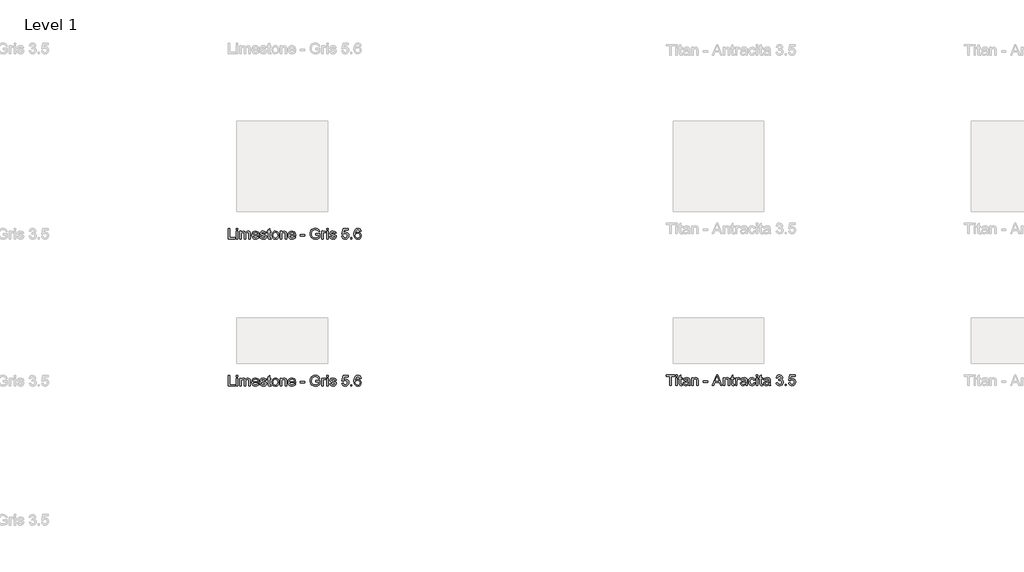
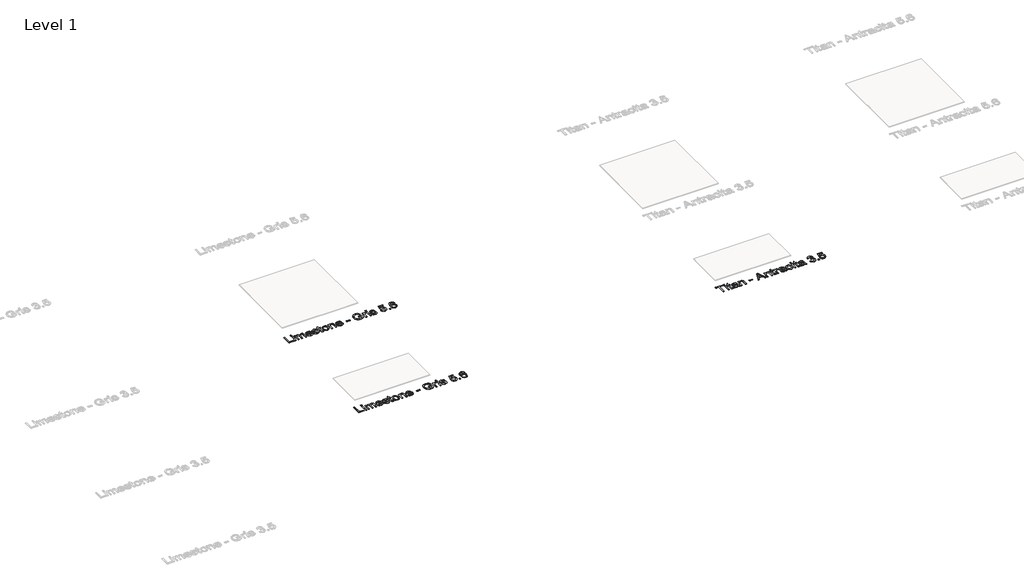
# One storey, part 6 of 80: 3 proxies.
"""IFC4 building model written with IfcOpenShell, lengths in millimetres."""

from ifc_helpers import new_model, si_unit, origin, origin_with_axes, place, context, project, spatial, polyline, outline, extrude, element, save

model = new_model("IFC4")

# Units and contexts
model_context = context("Model", 3, world=origin())
ifc_project = project(units=[si_unit("LENGTHUNIT", "METRE", prefix="MILLI")], contexts=[model_context])

# Site, building, storey
site = spatial("IfcSite", under=ifc_project)
building = spatial("IfcBuilding", under=site)
storey = spatial("IfcBuildingStorey", under=building, Name="Level 1", Elevation=0.0)

# Proxies
placement = place(None, origin())
element("IfcBuildingElementProxy", 1, Name="24\" Arial", ObjectType="24\" Arial", at=placement, inside=storey, context=model_context, shape_type="SweptSolid", body=[
    extrude(outline(polyline([(-15795.3838002, -18695.513613), (-15795.3838002, -18577.3597669), (-15780.6145694, -18577.3597669), (-15780.6145694, -18680.7443823), (-15721.5376464, -18680.7443823), (-15721.5376464, -18695.513613), (-15795.3838002, -18695.513613)])), origin_with_axes(), (0.0, 0.0, 1.0), 2.0),
    extrude(outline(polyline([(-15706.7684156, -18592.1289977), (-15706.7684156, -18577.3597669), (-15691.9991848, -18577.3597669), (-15691.9991848, -18592.1289977), (-15706.7684156, -18592.1289977)])), origin_with_axes(), (0.0, 0.0, 1.0), 2.0),
    extrude(outline(polyline([(-15706.7684156, -18695.513613), (-15706.7684156, -18608.7443823), (-15691.9991848, -18608.7443823), (-15691.9991848, -18695.513613), (-15706.7684156, -18695.513613)])), origin_with_axes(), (0.0, 0.0, 1.0), 2.0),
    extrude(outline(polyline([(-15669.8453387, -18695.513613), (-15669.8453387, -18608.7443823), (-15655.0761079, -18608.7443823), (-15655.0761079, -18623.0232284), (-15644.9222617, -18611.326113), (-15630.4703387, -18606.8982284), (-15615.6722617, -18611.4126515), (-15607.5376464, -18624.06169), (-15596.0136079, -18611.1890938), (-15581.4607233, -18606.8982284), (-15570.3585598, -18608.6830842), (-15562.1482233, -18614.0376515), (-15557.074906, -18623.1061611), (-15555.3838002, -18636.0328438), (-15555.3838002, -18695.513613), (-15570.153031, -18695.513613), (-15570.153031, -18642.3789977), (-15571.5232233, -18630.0472669), (-15576.4847617, -18623.9751515), (-15584.9222617, -18621.6674592), (-15592.9234637, -18623.1458246), (-15599.4463002, -18627.5809207), (-15603.7840406, -18635.2756323), (-15605.2299541, -18646.5328438), (-15605.2299541, -18695.513613), (-15619.9991848, -18695.513613), (-15619.9991848, -18640.7347669), (-15623.4174541, -18626.4270746), (-15634.6241848, -18621.6674592), (-15645.5568771, -18624.8405361), (-15652.8261079, -18634.1289977), (-15655.0761079, -18651.7539977), (-15655.0761079, -18695.513613), (-15669.8453387, -18695.513613)])), origin_with_axes(), (0.0, 0.0, 1.0), 2.0),
    extrude(outline(polyline([(-15472.4799541, -18669.6674592), (-15457.9991848, -18671.513613), (-15463.2167329, -18682.4246707), (-15471.5424541, -18690.5809207), (-15482.7888483, -18695.6650553), (-15496.7684156, -18697.3597669), (-15514.0977425, -18694.435488), (-15527.4318771, -18685.6626515), (-15535.934281, -18671.6109688), (-15538.7684156, -18652.8501515), (-15535.9054348, -18633.4583246), (-15527.3164925, -18618.9559207), (-15514.1626464, -18609.9126515), (-15497.6049541, -18606.8982284), (-15481.5628867, -18609.90544), (-15468.7443771, -18618.9270746), (-15460.3393291, -18633.4006323), (-15457.5376464, -18652.763613), (-15457.6241848, -18656.7443823), (-15523.9991848, -18656.7443823), (-15521.4426944, -18667.7996707), (-15515.5039925, -18675.9270746), (-15506.9330791, -18680.9246707), (-15496.4799541, -18682.5905361), (-15481.9991848, -18679.5039977), (-15472.4799541, -18669.6674592)]), holes=[polyline([(-15523.9991848, -18641.9751515), (-15472.3068771, -18641.9751515), (-15478.2203387, -18628.5905361), (-15486.8309156, -18623.3982284), (-15497.6626464, -18621.6674592), (-15515.8501464, -18627.1914977), (-15521.5725021, -18633.6494303), (-15523.9991848, -18641.9751515)])]), origin_with_axes(), (0.0, 0.0, 1.0), 2.0),
    extrude(outline(polyline([(-15448.3068771, -18669.6674592), (-15433.5376464, -18667.8213053), (-15426.7011079, -18678.7828438), (-15411.0376464, -18682.5905361), (-15395.9799541, -18679.1001515), (-15391.0761079, -18670.9078438), (-15396.0088002, -18664.2732284), (-15411.2107233, -18660.06169), (-15433.4511079, -18652.8357284), (-15443.1578387, -18644.3982284), (-15446.4607233, -18632.4847669), (-15443.8068771, -18621.4799592), (-15436.5664925, -18613.0713053), (-15427.1770694, -18608.701113), (-15414.4703387, -18606.8982284), (-15396.4991848, -18609.7972669), (-15385.0761079, -18617.6434207), (-15379.9991848, -18630.8982284), (-15394.7684156, -18632.7443823), (-15400.3213002, -18624.5953438), (-15413.3164925, -18621.6674592), (-15427.4511079, -18624.4655361), (-15431.6914925, -18630.9847669), (-15429.9318771, -18635.2828438), (-15424.4222617, -18638.5424592), (-15411.7011079, -18641.68669), (-15390.0232233, -18648.638613), (-15379.9559156, -18656.513613), (-15376.3068771, -18669.3501515), (-15380.590531, -18683.4847669), (-15392.9511079, -18693.7395746), (-15411.2395694, -18697.3597669), (-15426.1313964, -18695.6145746), (-15436.9991848, -18690.3789977), (-15444.2539925, -18681.7107284), (-15448.3068771, -18669.6674592)])), origin_with_axes(), (0.0, 0.0, 1.0), 2.0),
    extrude(outline(polyline([(-15328.3068771, -18683.1963053), (-15326.4607233, -18695.9463053), (-15337.5088002, -18697.3597669), (-15349.8838002, -18694.9078438), (-15356.0568771, -18688.4751515), (-15357.8453387, -18671.7155361), (-15357.8453387, -18623.513613), (-15368.9222617, -18623.513613), (-15368.9222617, -18608.7443823), (-15357.8453387, -18608.7443823), (-15357.8453387, -18587.6578438), (-15343.0761079, -18578.9751515), (-15343.0761079, -18608.7443823), (-15328.3068771, -18608.7443823), (-15328.3068771, -18623.513613), (-15343.0761079, -18623.513613), (-15343.0761079, -18671.2828438), (-15342.2972617, -18678.8982284), (-15339.7732233, -18681.5953438), (-15334.7395694, -18682.5905361), (-15328.3068771, -18683.1963053)])), origin_with_axes(), (0.0, 0.0, 1.0), 2.0),
    extrude(outline(polyline([(-15317.2299541, -18652.1289977), (-15314.0352425, -18631.2083246), (-15304.4511079, -18616.5039977), (-15292.6097617, -18609.2996707), (-15278.4318771, -18606.8982284), (-15262.9162521, -18609.8225073), (-15250.5232233, -18618.5953438), (-15242.3994252, -18632.5244303), (-15239.6914925, -18650.9174592), (-15244.4799541, -18677.1963053), (-15258.4270694, -18692.0664977), (-15278.4318771, -18697.3597669), (-15294.1350021, -18694.4463053), (-15306.5136079, -18685.7059207), (-15314.5508675, -18671.4847669), (-15317.2299541, -18652.1289977)]), holes=[polyline([(-15302.4607233, -18652.1001515), (-15300.7515887, -18665.466738), (-15295.6241848, -18674.9895746), (-15287.9078387, -18680.6902957), (-15278.4318771, -18682.5905361), (-15268.9991848, -18680.6794784), (-15261.2972617, -18674.9463053), (-15256.1698579, -18665.2972669), (-15254.4607233, -18651.638613), (-15256.1806752, -18638.6614496), (-15261.340531, -18629.2684207), (-15269.0532714, -18623.5676996), (-15278.4318771, -18621.6674592), (-15287.9078387, -18623.560488), (-15295.6241848, -18629.2395746), (-15300.7515887, -18638.7407765), (-15302.4607233, -18652.1001515)])]), origin_with_axes(), (0.0, 0.0, 1.0), 2.0),
    extrude(outline(polyline([(-15223.0761079, -18695.513613), (-15223.0761079, -18608.7443823), (-15208.3068771, -18608.7443823), (-15208.3068771, -18620.8597669), (-15197.0136079, -18610.388613), (-15181.5953387, -18606.8982284), (-15167.6482233, -18609.7107284), (-15158.1289925, -18617.0953438), (-15153.7011079, -18627.9559207), (-15152.9222617, -18642.2347669), (-15152.9222617, -18695.513613), (-15167.6914925, -18695.513613), (-15167.6914925, -18644.2251515), (-15169.3934156, -18631.1578438), (-15175.4078387, -18624.24919), (-15185.5472617, -18621.6674592), (-15201.5713002, -18627.4655361), (-15206.6229829, -18635.8669784), (-15208.3068771, -18649.4751515), (-15208.3068771, -18695.513613), (-15223.0761079, -18695.513613)])), origin_with_axes(), (0.0, 0.0, 1.0), 2.0),
    extrude(outline(polyline([(-15071.8645694, -18669.6674592), (-15057.3838002, -18671.513613), (-15062.6013483, -18682.4246707), (-15070.9270694, -18690.5809207), (-15082.1734637, -18695.6650553), (-15096.153031, -18697.3597669), (-15113.4823579, -18694.435488), (-15126.8164925, -18685.6626515), (-15135.3188964, -18671.6109688), (-15138.153031, -18652.8501515), (-15135.2900502, -18633.4583246), (-15126.7011079, -18618.9559207), (-15113.5472617, -18609.9126515), (-15096.9895694, -18606.8982284), (-15080.9475021, -18609.90544), (-15068.1289925, -18618.9270746), (-15059.7239444, -18633.4006323), (-15056.9222617, -18652.763613), (-15057.0088002, -18656.7443823), (-15123.3838002, -18656.7443823), (-15120.8273098, -18667.7996707), (-15114.8886079, -18675.9270746), (-15106.3176944, -18680.9246707), (-15095.8645694, -18682.5905361), (-15081.3838002, -18679.5039977), (-15071.8645694, -18669.6674592)]), holes=[polyline([(-15123.3838002, -18641.9751515), (-15071.6914925, -18641.9751515), (-15077.6049541, -18628.5905361), (-15086.215531, -18623.3982284), (-15097.0472617, -18621.6674592), (-15115.2347617, -18627.1914977), (-15120.9571175, -18633.6494303), (-15123.3838002, -18641.9751515)])]), origin_with_axes(), (0.0, 0.0, 1.0), 2.0),
    extrude(outline(polyline([(-15003.3838002, -18660.43669), (-15003.3838002, -18645.6674592), (-14957.2299541, -18645.6674592), (-14957.2299541, -18660.43669), (-15003.3838002, -18660.43669)])), origin_with_axes(), (0.0, 0.0, 1.0), 2.0),
    extrude(outline(polyline([(-14837.2299541, -18649.3597669), (-14837.2299541, -18634.5905361), (-14789.2299541, -18634.5905361), (-14789.2299541, -18678.7539977), (-14812.9270694, -18692.68669), (-14837.9799541, -18697.3597669), (-14854.5484637, -18695.5027957), (-14869.5232233, -18689.9318823), (-14881.9631271, -18680.841738), (-14890.9270694, -18668.4270746), (-14896.3465406, -18653.5352477), (-14898.153031, -18637.013613), (-14896.3537521, -18620.372988), (-14890.9559156, -18604.8934207), (-14882.1830791, -18591.9090457), (-14870.2588002, -18582.7539977), (-14855.7347617, -18577.3237092), (-14839.1626464, -18575.513613), (-14816.0568771, -18579.7107284), (-14799.8597617, -18591.3934207), (-14790.9318771, -18610.93669), (-14804.5472617, -18614.7732284), (-14811.2828387, -18601.1145746), (-14822.7924541, -18593.2395746), (-14839.3934156, -18590.2828438), (-14858.3020694, -18593.4703438), (-14871.1674541, -18601.8357284), (-14878.7684156, -18613.2155361), (-14883.3838002, -18636.4078438), (-14881.9955791, -18650.5316419), (-14877.8309156, -18662.1530361), (-14871.0160117, -18671.1890938), (-14861.6770694, -18677.5568823), (-14839.1626464, -18682.5905361), (-14818.9559156, -18678.7972669), (-14803.9991848, -18670.7059207), (-14803.9991848, -18649.3597669), (-14837.2299541, -18649.3597669)])), origin_with_axes(), (0.0, 0.0, 1.0), 2.0),
    extrude(outline(polyline([(-14767.0761079, -18695.513613), (-14767.0761079, -18608.7443823), (-14754.153031, -18608.7443823), (-14754.153031, -18621.5809207), (-14744.9799541, -18609.7539977), (-14735.7491848, -18606.8982284), (-14720.9222617, -18611.4559207), (-14725.8549541, -18624.6963053), (-14736.2395694, -18621.6674592), (-14744.590531, -18624.5809207), (-14749.9126464, -18632.6578438), (-14752.3068771, -18649.9078438), (-14752.3068771, -18695.513613), (-14767.0761079, -18695.513613)])), origin_with_axes(), (0.0, 0.0, 1.0), 2.0),
    extrude(outline(polyline([(-14711.6914925, -18592.1289977), (-14711.6914925, -18577.3597669), (-14696.9222617, -18577.3597669), (-14696.9222617, -18592.1289977), (-14711.6914925, -18592.1289977)])), origin_with_axes(), (0.0, 0.0, 1.0), 2.0),
    extrude(outline(polyline([(-14711.6914925, -18695.513613), (-14711.6914925, -18608.7443823), (-14696.9222617, -18608.7443823), (-14696.9222617, -18695.513613), (-14711.6914925, -18695.513613)])), origin_with_axes(), (0.0, 0.0, 1.0), 2.0),
    extrude(outline(polyline([(-14680.3068771, -18669.6674592), (-14665.5376464, -18667.8213053), (-14658.7011079, -18678.7828438), (-14643.0376464, -18682.5905361), (-14627.9799541, -18679.1001515), (-14623.0761079, -18670.9078438), (-14628.0088002, -18664.2732284), (-14643.2107233, -18660.06169), (-14665.4511079, -18652.8357284), (-14675.1578387, -18644.3982284), (-14678.4607233, -18632.4847669), (-14675.8068771, -18621.4799592), (-14668.5664925, -18613.0713053), (-14659.1770694, -18608.701113), (-14646.4703387, -18606.8982284), (-14628.4991848, -18609.7972669), (-14617.0761079, -18617.6434207), (-14611.9991848, -18630.8982284), (-14626.7684156, -18632.7443823), (-14632.3213002, -18624.5953438), (-14645.3164925, -18621.6674592), (-14659.4511079, -18624.4655361), (-14663.6914925, -18630.9847669), (-14661.9318771, -18635.2828438), (-14656.4222617, -18638.5424592), (-14643.7011079, -18641.68669), (-14622.0232233, -18648.638613), (-14611.9559156, -18656.513613), (-14608.3068771, -18669.3501515), (-14612.590531, -18683.4847669), (-14624.9511079, -18693.7395746), (-14643.2395694, -18697.3597669), (-14658.1313964, -18695.6145746), (-14668.9991848, -18690.3789977), (-14676.2539925, -18681.7107284), (-14680.3068771, -18669.6674592)])), origin_with_axes(), (0.0, 0.0, 1.0), 2.0),
    extrude(outline(polyline([(-14549.2299541, -18664.1289977), (-14534.4607233, -18662.2828438), (-14527.0184156, -18677.49919), (-14511.5857233, -18682.5905361), (-14500.9991848, -18680.8201034), (-14493.0664925, -18675.5088053), (-14488.1121656, -18667.2696227), (-14486.4607233, -18656.7155361), (-14488.0075983, -18646.7780361), (-14492.6482233, -18639.1770746), (-14500.418656, -18634.3525553), (-14511.3549541, -18632.7443823), (-14524.3213002, -18635.31169), (-14532.6145694, -18641.9751515), (-14547.3838002, -18640.1289977), (-14534.4607233, -18579.2059207), (-14477.2299541, -18579.2059207), (-14477.2299541, -18593.9751515), (-14522.5184156, -18593.9751515), (-14528.8357233, -18626.513613), (-14518.2852425, -18620.1097669), (-14507.2299541, -18617.9751515), (-14493.4306752, -18620.6217861), (-14481.9751464, -18628.56169), (-14474.262406, -18640.6626515), (-14471.6914925, -18655.7924592), (-14474.0063964, -18670.56169), (-14480.9511079, -18683.1963053), (-14494.2491848, -18693.8189015), (-14511.6434156, -18697.3597669), (-14526.1494252, -18695.0845265), (-14537.7059156, -18688.2588053), (-14545.6277906, -18677.6758727), (-14549.2299541, -18664.1289977)])), origin_with_axes(), (0.0, 0.0, 1.0), 2.0),
    extrude(outline(polyline([(-14451.3838002, -18695.513613), (-14451.3838002, -18680.7443823), (-14436.6145694, -18680.7443823), (-14436.6145694, -18695.513613), (-14451.3838002, -18695.513613)])), origin_with_axes(), (0.0, 0.0, 1.0), 2.0),
    extrude(outline(polyline([(-14336.9222617, -18608.7443823), (-14351.6914925, -18610.5905361), (-14357.2876464, -18598.2732284), (-14363.9871656, -18593.6650553), (-14372.0857233, -18592.1289977), (-14385.4126464, -18595.7059207), (-14395.4943771, -18609.1338053), (-14399.6914925, -18635.4559207), (-14386.6674541, -18623.6722669), (-14370.528031, -18619.8213053), (-14356.8838002, -18622.4535169), (-14345.4318771, -18630.3501515), (-14337.6650502, -18642.4150553), (-14335.0761079, -18657.5520746), (-14339.9511079, -18677.9318823), (-14353.3645694, -18692.3549592), (-14372.7203387, -18697.3597669), (-14389.4763483, -18694.0424592), (-14402.8213002, -18684.0905361), (-14411.5508675, -18666.5232284), (-14414.4607233, -18640.3597669), (-14411.2299541, -18610.9439015), (-14401.5376464, -18590.8309207), (-14388.3044733, -18580.7275553), (-14371.1626464, -18577.3597669), (-14358.2035117, -18579.4439015), (-14347.8261079, -18585.6963053), (-14340.5568771, -18595.6265938), (-14336.9222617, -18608.7443823)]), holes=[polyline([(-14399.6914925, -18657.3213053), (-14396.2732233, -18670.1145746), (-14387.1866848, -18679.4030361), (-14373.8741848, -18682.5905361), (-14364.1277906, -18680.9390938), (-14356.465531, -18675.9847669), (-14351.5003867, -18668.1963053), (-14349.8453387, -18658.0424592), (-14351.4787521, -18648.296065), (-14356.3789925, -18640.8645746), (-14364.1710598, -18636.1590457), (-14374.4799541, -18634.5905361), (-14384.2119252, -18636.1590457), (-14392.3501464, -18640.8645746), (-14397.856156, -18648.1157765), (-14399.6914925, -18657.3213053)])]), origin_with_axes(), (0.0, 0.0, 1.0), 2.0),
])
element("IfcBuildingElementProxy", 2, Name="24\" Arial", ObjectType="24\" Arial", at=placement, inside=storey, context=model_context, shape_type="SweptSolid", body=[
    extrude(outline(polyline([(-15795.3838002, -20313.2188289), (-15795.3838002, -20195.0649827), (-15780.6145694, -20195.0649827), (-15780.6145694, -20298.4495981), (-15721.5376464, -20298.4495981), (-15721.5376464, -20313.2188289), (-15795.3838002, -20313.2188289)])), origin_with_axes(), (0.0, 0.0, 1.0), 2.0),
    extrude(outline(polyline([(-15706.7684156, -20209.8342135), (-15706.7684156, -20195.0649827), (-15691.9991848, -20195.0649827), (-15691.9991848, -20209.8342135), (-15706.7684156, -20209.8342135)])), origin_with_axes(), (0.0, 0.0, 1.0), 2.0),
    extrude(outline(polyline([(-15706.7684156, -20313.2188289), (-15706.7684156, -20226.4495981), (-15691.9991848, -20226.4495981), (-15691.9991848, -20313.2188289), (-15706.7684156, -20313.2188289)])), origin_with_axes(), (0.0, 0.0, 1.0), 2.0),
    extrude(outline(polyline([(-15669.8453387, -20313.2188289), (-15669.8453387, -20226.4495981), (-15655.0761079, -20226.4495981), (-15655.0761079, -20240.7284443), (-15644.9222617, -20229.0313289), (-15630.4703387, -20224.6034443), (-15615.6722617, -20229.1178673), (-15607.5376464, -20241.7669058), (-15596.0136079, -20228.8943097), (-15581.4607233, -20224.6034443), (-15570.3585598, -20226.3883), (-15562.1482233, -20231.7428673), (-15557.074906, -20240.811377), (-15555.3838002, -20253.7380597), (-15555.3838002, -20313.2188289), (-15570.153031, -20313.2188289), (-15570.153031, -20260.0842135), (-15571.5232233, -20247.7524827), (-15576.4847617, -20241.6803673), (-15584.9222617, -20239.372675), (-15592.9234637, -20240.8510404), (-15599.4463002, -20245.2861366), (-15603.7840406, -20252.9808481), (-15605.2299541, -20264.2380597), (-15605.2299541, -20313.2188289), (-15619.9991848, -20313.2188289), (-15619.9991848, -20258.4399827), (-15623.4174541, -20244.1322904), (-15634.6241848, -20239.372675), (-15645.5568771, -20242.545752), (-15652.8261079, -20251.8342135), (-15655.0761079, -20269.4592135), (-15655.0761079, -20313.2188289), (-15669.8453387, -20313.2188289)])), origin_with_axes(), (0.0, 0.0, 1.0), 2.0),
    extrude(outline(polyline([(-15472.4799541, -20287.372675), (-15457.9991848, -20289.2188289), (-15463.2167329, -20300.1298866), (-15471.5424541, -20308.2861366), (-15482.7888483, -20313.3702712), (-15496.7684156, -20315.0649827), (-15514.0977425, -20312.1407039), (-15527.4318771, -20303.3678673), (-15535.934281, -20289.3161847), (-15538.7684156, -20270.5553673), (-15535.9054348, -20251.1635404), (-15527.3164925, -20236.6611366), (-15514.1626464, -20227.6178673), (-15497.6049541, -20224.6034443), (-15481.5628867, -20227.6106558), (-15468.7443771, -20236.6322904), (-15460.3393291, -20251.1058481), (-15457.5376464, -20270.4688289), (-15457.6241848, -20274.4495981), (-15523.9991848, -20274.4495981), (-15521.4426944, -20285.5048866), (-15515.5039925, -20293.6322904), (-15506.9330791, -20298.6298866), (-15496.4799541, -20300.295752), (-15481.9991848, -20297.2092135), (-15472.4799541, -20287.372675)]), holes=[polyline([(-15523.9991848, -20259.6803673), (-15472.3068771, -20259.6803673), (-15478.2203387, -20246.295752), (-15486.8309156, -20241.1034443), (-15497.6626464, -20239.372675), (-15515.8501464, -20244.8967135), (-15521.5725021, -20251.3546462), (-15523.9991848, -20259.6803673)])]), origin_with_axes(), (0.0, 0.0, 1.0), 2.0),
    extrude(outline(polyline([(-15448.3068771, -20287.372675), (-15433.5376464, -20285.5265212), (-15426.7011079, -20296.4880597), (-15411.0376464, -20300.295752), (-15395.9799541, -20296.8053673), (-15391.0761079, -20288.6130597), (-15396.0088002, -20281.9784443), (-15411.2107233, -20277.7669058), (-15433.4511079, -20270.5409443), (-15443.1578387, -20262.1034443), (-15446.4607233, -20250.1899827), (-15443.8068771, -20239.185175), (-15436.5664925, -20230.7765212), (-15427.1770694, -20226.4063289), (-15414.4703387, -20224.6034443), (-15396.4991848, -20227.5024827), (-15385.0761079, -20235.3486366), (-15379.9991848, -20248.6034443), (-15394.7684156, -20250.4495981), (-15400.3213002, -20242.3005597), (-15413.3164925, -20239.372675), (-15427.4511079, -20242.170752), (-15431.6914925, -20248.6899827), (-15429.9318771, -20252.9880597), (-15424.4222617, -20256.247675), (-15411.7011079, -20259.3919058), (-15390.0232233, -20266.3438289), (-15379.9559156, -20274.2188289), (-15376.3068771, -20287.0553673), (-15380.590531, -20301.1899827), (-15392.9511079, -20311.4447904), (-15411.2395694, -20315.0649827), (-15426.1313964, -20313.3197904), (-15436.9991848, -20308.0842135), (-15444.2539925, -20299.4159443), (-15448.3068771, -20287.372675)])), origin_with_axes(), (0.0, 0.0, 1.0), 2.0),
    extrude(outline(polyline([(-15328.3068771, -20300.9015212), (-15326.4607233, -20313.6515212), (-15337.5088002, -20315.0649827), (-15349.8838002, -20312.6130597), (-15356.0568771, -20306.1803673), (-15357.8453387, -20289.420752), (-15357.8453387, -20241.2188289), (-15368.9222617, -20241.2188289), (-15368.9222617, -20226.4495981), (-15357.8453387, -20226.4495981), (-15357.8453387, -20205.3630597), (-15343.0761079, -20196.6803673), (-15343.0761079, -20226.4495981), (-15328.3068771, -20226.4495981), (-15328.3068771, -20241.2188289), (-15343.0761079, -20241.2188289), (-15343.0761079, -20288.9880597), (-15342.2972617, -20296.6034443), (-15339.7732233, -20299.3005597), (-15334.7395694, -20300.295752), (-15328.3068771, -20300.9015212)])), origin_with_axes(), (0.0, 0.0, 1.0), 2.0),
    extrude(outline(polyline([(-15317.2299541, -20269.8342135), (-15314.0352425, -20248.9135404), (-15304.4511079, -20234.2092135), (-15292.6097617, -20227.0048866), (-15278.4318771, -20224.6034443), (-15262.9162521, -20227.5277231), (-15250.5232233, -20236.3005597), (-15242.3994252, -20250.2296462), (-15239.6914925, -20268.622675), (-15244.4799541, -20294.9015212), (-15258.4270694, -20309.7717135), (-15278.4318771, -20315.0649827), (-15294.1350021, -20312.1515212), (-15306.5136079, -20303.4111366), (-15314.5508675, -20289.1899827), (-15317.2299541, -20269.8342135)]), holes=[polyline([(-15302.4607233, -20269.8053673), (-15300.7515887, -20283.1719539), (-15295.6241848, -20292.6947904), (-15287.9078387, -20298.3955116), (-15278.4318771, -20300.295752), (-15268.9991848, -20298.3846943), (-15261.2972617, -20292.6515212), (-15256.1698579, -20283.0024827), (-15254.4607233, -20269.3438289), (-15256.1806752, -20256.3666654), (-15261.340531, -20246.9736366), (-15269.0532714, -20241.2729154), (-15278.4318771, -20239.372675), (-15287.9078387, -20241.2657039), (-15295.6241848, -20246.9447904), (-15300.7515887, -20256.4459923), (-15302.4607233, -20269.8053673)])]), origin_with_axes(), (0.0, 0.0, 1.0), 2.0),
    extrude(outline(polyline([(-15223.0761079, -20313.2188289), (-15223.0761079, -20226.4495981), (-15208.3068771, -20226.4495981), (-15208.3068771, -20238.5649827), (-15197.0136079, -20228.0938289), (-15181.5953387, -20224.6034443), (-15167.6482233, -20227.4159443), (-15158.1289925, -20234.8005597), (-15153.7011079, -20245.6611366), (-15152.9222617, -20259.9399827), (-15152.9222617, -20313.2188289), (-15167.6914925, -20313.2188289), (-15167.6914925, -20261.9303673), (-15169.3934156, -20248.8630597), (-15175.4078387, -20241.9544058), (-15185.5472617, -20239.372675), (-15201.5713002, -20245.170752), (-15206.6229829, -20253.5721943), (-15208.3068771, -20267.1803673), (-15208.3068771, -20313.2188289), (-15223.0761079, -20313.2188289)])), origin_with_axes(), (0.0, 0.0, 1.0), 2.0),
    extrude(outline(polyline([(-15071.8645694, -20287.372675), (-15057.3838002, -20289.2188289), (-15062.6013483, -20300.1298866), (-15070.9270694, -20308.2861366), (-15082.1734637, -20313.3702712), (-15096.153031, -20315.0649827), (-15113.4823579, -20312.1407039), (-15126.8164925, -20303.3678673), (-15135.3188964, -20289.3161847), (-15138.153031, -20270.5553673), (-15135.2900502, -20251.1635404), (-15126.7011079, -20236.6611366), (-15113.5472617, -20227.6178673), (-15096.9895694, -20224.6034443), (-15080.9475021, -20227.6106558), (-15068.1289925, -20236.6322904), (-15059.7239444, -20251.1058481), (-15056.9222617, -20270.4688289), (-15057.0088002, -20274.4495981), (-15123.3838002, -20274.4495981), (-15120.8273098, -20285.5048866), (-15114.8886079, -20293.6322904), (-15106.3176944, -20298.6298866), (-15095.8645694, -20300.295752), (-15081.3838002, -20297.2092135), (-15071.8645694, -20287.372675)]), holes=[polyline([(-15123.3838002, -20259.6803673), (-15071.6914925, -20259.6803673), (-15077.6049541, -20246.295752), (-15086.215531, -20241.1034443), (-15097.0472617, -20239.372675), (-15115.2347617, -20244.8967135), (-15120.9571175, -20251.3546462), (-15123.3838002, -20259.6803673)])]), origin_with_axes(), (0.0, 0.0, 1.0), 2.0),
    extrude(outline(polyline([(-15003.3838002, -20278.1419058), (-15003.3838002, -20263.372675), (-14957.2299541, -20263.372675), (-14957.2299541, -20278.1419058), (-15003.3838002, -20278.1419058)])), origin_with_axes(), (0.0, 0.0, 1.0), 2.0),
    extrude(outline(polyline([(-14837.2299541, -20267.0649827), (-14837.2299541, -20252.295752), (-14789.2299541, -20252.295752), (-14789.2299541, -20296.4592135), (-14812.9270694, -20310.3919058), (-14837.9799541, -20315.0649827), (-14854.5484637, -20313.2080116), (-14869.5232233, -20307.6370981), (-14881.9631271, -20298.5469539), (-14890.9270694, -20286.1322904), (-14896.3465406, -20271.2404635), (-14898.153031, -20254.7188289), (-14896.3537521, -20238.0782039), (-14890.9559156, -20222.5986366), (-14882.1830791, -20209.6142616), (-14870.2588002, -20200.4592135), (-14855.7347617, -20195.028925), (-14839.1626464, -20193.2188289), (-14816.0568771, -20197.4159443), (-14799.8597617, -20209.0986366), (-14790.9318771, -20228.6419058), (-14804.5472617, -20232.4784443), (-14811.2828387, -20218.8197904), (-14822.7924541, -20210.9447904), (-14839.3934156, -20207.9880597), (-14858.3020694, -20211.1755597), (-14871.1674541, -20219.5409443), (-14878.7684156, -20230.920752), (-14883.3838002, -20254.1130597), (-14881.9955791, -20268.2368577), (-14877.8309156, -20279.858252), (-14871.0160117, -20288.8943097), (-14861.6770694, -20295.2620981), (-14839.1626464, -20300.295752), (-14818.9559156, -20296.5024827), (-14803.9991848, -20288.4111366), (-14803.9991848, -20267.0649827), (-14837.2299541, -20267.0649827)])), origin_with_axes(), (0.0, 0.0, 1.0), 2.0),
    extrude(outline(polyline([(-14767.0761079, -20313.2188289), (-14767.0761079, -20226.4495981), (-14754.153031, -20226.4495981), (-14754.153031, -20239.2861366), (-14744.9799541, -20227.4592135), (-14735.7491848, -20224.6034443), (-14720.9222617, -20229.1611366), (-14725.8549541, -20242.4015212), (-14736.2395694, -20239.372675), (-14744.590531, -20242.2861366), (-14749.9126464, -20250.3630597), (-14752.3068771, -20267.6130597), (-14752.3068771, -20313.2188289), (-14767.0761079, -20313.2188289)])), origin_with_axes(), (0.0, 0.0, 1.0), 2.0),
    extrude(outline(polyline([(-14711.6914925, -20209.8342135), (-14711.6914925, -20195.0649827), (-14696.9222617, -20195.0649827), (-14696.9222617, -20209.8342135), (-14711.6914925, -20209.8342135)])), origin_with_axes(), (0.0, 0.0, 1.0), 2.0),
    extrude(outline(polyline([(-14711.6914925, -20313.2188289), (-14711.6914925, -20226.4495981), (-14696.9222617, -20226.4495981), (-14696.9222617, -20313.2188289), (-14711.6914925, -20313.2188289)])), origin_with_axes(), (0.0, 0.0, 1.0), 2.0),
    extrude(outline(polyline([(-14680.3068771, -20287.372675), (-14665.5376464, -20285.5265212), (-14658.7011079, -20296.4880597), (-14643.0376464, -20300.295752), (-14627.9799541, -20296.8053673), (-14623.0761079, -20288.6130597), (-14628.0088002, -20281.9784443), (-14643.2107233, -20277.7669058), (-14665.4511079, -20270.5409443), (-14675.1578387, -20262.1034443), (-14678.4607233, -20250.1899827), (-14675.8068771, -20239.185175), (-14668.5664925, -20230.7765212), (-14659.1770694, -20226.4063289), (-14646.4703387, -20224.6034443), (-14628.4991848, -20227.5024827), (-14617.0761079, -20235.3486366), (-14611.9991848, -20248.6034443), (-14626.7684156, -20250.4495981), (-14632.3213002, -20242.3005597), (-14645.3164925, -20239.372675), (-14659.4511079, -20242.170752), (-14663.6914925, -20248.6899827), (-14661.9318771, -20252.9880597), (-14656.4222617, -20256.247675), (-14643.7011079, -20259.3919058), (-14622.0232233, -20266.3438289), (-14611.9559156, -20274.2188289), (-14608.3068771, -20287.0553673), (-14612.590531, -20301.1899827), (-14624.9511079, -20311.4447904), (-14643.2395694, -20315.0649827), (-14658.1313964, -20313.3197904), (-14668.9991848, -20308.0842135), (-14676.2539925, -20299.4159443), (-14680.3068771, -20287.372675)])), origin_with_axes(), (0.0, 0.0, 1.0), 2.0),
    extrude(outline(polyline([(-14549.2299541, -20281.8342135), (-14534.4607233, -20279.9880597), (-14527.0184156, -20295.2044058), (-14511.5857233, -20300.295752), (-14500.9991848, -20298.5253193), (-14493.0664925, -20293.2140212), (-14488.1121656, -20284.9748385), (-14486.4607233, -20274.420752), (-14488.0075983, -20264.483252), (-14492.6482233, -20256.8822904), (-14500.418656, -20252.0577712), (-14511.3549541, -20250.4495981), (-14524.3213002, -20253.0169058), (-14532.6145694, -20259.6803673), (-14547.3838002, -20257.8342135), (-14534.4607233, -20196.9111366), (-14477.2299541, -20196.9111366), (-14477.2299541, -20211.6803673), (-14522.5184156, -20211.6803673), (-14528.8357233, -20244.2188289), (-14518.2852425, -20237.8149827), (-14507.2299541, -20235.6803673), (-14493.4306752, -20238.327002), (-14481.9751464, -20246.2669058), (-14474.262406, -20258.3678673), (-14471.6914925, -20273.497675), (-14474.0063964, -20288.2669058), (-14480.9511079, -20300.9015212), (-14494.2491848, -20311.5241173), (-14511.6434156, -20315.0649827), (-14526.1494252, -20312.7897423), (-14537.7059156, -20305.9640212), (-14545.6277906, -20295.3810885), (-14549.2299541, -20281.8342135)])), origin_with_axes(), (0.0, 0.0, 1.0), 2.0),
    extrude(outline(polyline([(-14451.3838002, -20313.2188289), (-14451.3838002, -20298.4495981), (-14436.6145694, -20298.4495981), (-14436.6145694, -20313.2188289), (-14451.3838002, -20313.2188289)])), origin_with_axes(), (0.0, 0.0, 1.0), 2.0),
    extrude(outline(polyline([(-14336.9222617, -20226.4495981), (-14351.6914925, -20228.295752), (-14357.2876464, -20215.9784443), (-14363.9871656, -20211.3702712), (-14372.0857233, -20209.8342135), (-14385.4126464, -20213.4111366), (-14395.4943771, -20226.8390212), (-14399.6914925, -20253.1611366), (-14386.6674541, -20241.3774827), (-14370.528031, -20237.5265212), (-14356.8838002, -20240.1587327), (-14345.4318771, -20248.0553673), (-14337.6650502, -20260.1202712), (-14335.0761079, -20275.2572904), (-14339.9511079, -20295.6370981), (-14353.3645694, -20310.060175), (-14372.7203387, -20315.0649827), (-14389.4763483, -20311.747675), (-14402.8213002, -20301.795752), (-14411.5508675, -20284.2284443), (-14414.4607233, -20258.0649827), (-14411.2299541, -20228.6491173), (-14401.5376464, -20208.5361366), (-14388.3044733, -20198.4327712), (-14371.1626464, -20195.0649827), (-14358.2035117, -20197.1491173), (-14347.8261079, -20203.4015212), (-14340.5568771, -20213.3318097), (-14336.9222617, -20226.4495981)]), holes=[polyline([(-14399.6914925, -20275.0265212), (-14396.2732233, -20287.8197904), (-14387.1866848, -20297.108252), (-14373.8741848, -20300.295752), (-14364.1277906, -20298.6443097), (-14356.465531, -20293.6899827), (-14351.5003867, -20285.9015212), (-14349.8453387, -20275.747675), (-14351.4787521, -20266.0012808), (-14356.3789925, -20258.5697904), (-14364.1710598, -20253.8642616), (-14374.4799541, -20252.295752), (-14384.2119252, -20253.8642616), (-14392.3501464, -20258.5697904), (-14397.856156, -20265.8209923), (-14399.6914925, -20275.0265212)])]), origin_with_axes(), (0.0, 0.0, 1.0), 2.0),
])
element("IfcBuildingElementProxy", 3, Name="24\" Arial", ObjectType="24\" Arial", at=placement, inside=storey, context=model_context, shape_type="SweptSolid", body=[
    extrude(outline(polyline([(-10942.7684156, -20307.8922787), (-10942.7684156, -20204.5076633), (-10981.5376464, -20204.5076633), (-10981.5376464, -20189.7384325), (-10889.2299541, -20189.7384325), (-10889.2299541, -20204.5076633), (-10927.9991848, -20204.5076633), (-10927.9991848, -20307.8922787), (-10942.7684156, -20307.8922787)])), origin_with_axes(), (0.0, 0.0, 1.0), 2.0),
    extrude(outline(polyline([(-10874.4607233, -20307.8922787), (-10874.4607233, -20221.1230479), (-10859.6914925, -20221.1230479), (-10859.6914925, -20307.8922787), (-10874.4607233, -20307.8922787)])), origin_with_axes(), (0.0, 0.0, 1.0), 2.0),
    extrude(outline(polyline([(-10874.4607233, -20204.5076633), (-10874.4607233, -20189.7384325), (-10859.6914925, -20189.7384325), (-10859.6914925, -20204.5076633), (-10874.4607233, -20204.5076633)])), origin_with_axes(), (0.0, 0.0, 1.0), 2.0),
    extrude(outline(polyline([(-10806.153031, -20295.574971), (-10804.3068771, -20308.324971), (-10815.3549541, -20309.7384325), (-10827.7299541, -20307.2865094), (-10833.903031, -20300.8538171), (-10835.6914925, -20284.0942017), (-10835.6914925, -20235.8922787), (-10846.7684156, -20235.8922787), (-10846.7684156, -20221.1230479), (-10835.6914925, -20221.1230479), (-10835.6914925, -20200.0365094), (-10820.9222617, -20191.3538171), (-10820.9222617, -20221.1230479), (-10806.153031, -20221.1230479), (-10806.153031, -20235.8922787), (-10820.9222617, -20235.8922787), (-10820.9222617, -20283.6615094), (-10820.1434156, -20291.276894), (-10817.6193771, -20293.9740094), (-10812.5857233, -20294.9692017), (-10806.153031, -20295.574971)])), origin_with_axes(), (0.0, 0.0, 1.0), 2.0),
    extrude(outline(polyline([(-10735.9991848, -20296.8153556), (-10750.3213002, -20306.824971), (-10766.1434156, -20309.7384325), (-10778.4859637, -20307.9860287), (-10787.590531, -20302.7288171), (-10793.2047137, -20294.745644), (-10795.0761079, -20284.8153556), (-10792.2491848, -20273.1326633), (-10784.8213002, -20264.651894), (-10774.4799541, -20259.8057402), (-10761.7011079, -20257.5845863), (-10736.0857233, -20252.5076633), (-10735.9991848, -20249.2192017), (-10740.0664925, -20238.3153556), (-10756.3934156, -20234.0461248), (-10771.3357233, -20236.887471), (-10778.4607233, -20246.9692017), (-10793.2299541, -20245.1230479), (-10786.840531, -20230.699971), (-10773.9751464, -20222.2480479), (-10754.4895694, -20219.276894), (-10736.590531, -20221.901894), (-10726.4799541, -20228.4932402), (-10721.9511079, -20238.5172787), (-10721.2299541, -20251.4403556), (-10721.2299541, -20269.8153556), (-10720.4799541, -20295.4740094), (-10717.5376464, -20307.8922787), (-10732.3068771, -20307.8922787), (-10735.9991848, -20296.8153556)]), holes=[polyline([(-10735.9991848, -20267.276894), (-10759.8261079, -20271.8057402), (-10772.5328387, -20274.199971), (-10778.2876464, -20278.0942017), (-10780.3068771, -20283.776894), (-10775.9078387, -20291.7672787), (-10762.9991848, -20294.9692017), (-10748.0568771, -20291.4355479), (-10738.4222617, -20282.8826633), (-10736.0857233, -20271.4595863), (-10735.9991848, -20267.276894)])]), origin_with_axes(), (0.0, 0.0, 1.0), 2.0),
    extrude(outline(polyline([(-10700.9222617, -20307.8922787), (-10700.9222617, -20221.1230479), (-10686.153031, -20221.1230479), (-10686.153031, -20233.2384325), (-10674.8597617, -20222.7672787), (-10659.4414925, -20219.276894), (-10645.4943771, -20222.089394), (-10635.9751464, -20229.4740094), (-10631.5472617, -20240.3345863), (-10630.7684156, -20254.6134325), (-10630.7684156, -20307.8922787), (-10645.5376464, -20307.8922787), (-10645.5376464, -20256.6038171), (-10647.2395694, -20243.5365094), (-10653.2539925, -20236.6278556), (-10663.3934156, -20234.0461248), (-10679.4174541, -20239.8442017), (-10684.4691367, -20248.245644), (-10686.153031, -20261.8538171), (-10686.153031, -20307.8922787), (-10700.9222617, -20307.8922787)])), origin_with_axes(), (0.0, 0.0, 1.0), 2.0),
    extrude(outline(polyline([(-10571.6914925, -20272.8153556), (-10571.6914925, -20258.0461248), (-10525.5376464, -20258.0461248), (-10525.5376464, -20272.8153556), (-10571.6914925, -20272.8153556)])), origin_with_axes(), (0.0, 0.0, 1.0), 2.0),
    extrude(outline(polyline([(-10474.6818771, -20307.8922787), (-10427.5184156, -20189.7384325), (-10414.9414925, -20189.7384325), (-10367.778031, -20307.8922787), (-10383.3838002, -20307.8922787), (-10396.9126464, -20270.9692017), (-10445.5761079, -20270.9692017), (-10459.0761079, -20307.8922787), (-10474.6818771, -20307.8922787)]), holes=[polyline([(-10440.153031, -20256.199971), (-10402.3068771, -20256.199971), (-10412.9511079, -20227.151894), (-10421.2299541, -20204.5076633), (-10428.5857233, -20224.6134325), (-10440.153031, -20256.199971)])]), origin_with_axes(), (0.0, 0.0, 1.0), 2.0),
    extrude(outline(polyline([(-10353.8453387, -20307.8922787), (-10353.8453387, -20221.1230479), (-10339.0761079, -20221.1230479), (-10339.0761079, -20233.2384325), (-10327.7828387, -20222.7672787), (-10312.3645694, -20219.276894), (-10298.4174541, -20222.089394), (-10288.8982233, -20229.4740094), (-10284.4703387, -20240.3345863), (-10283.6914925, -20254.6134325), (-10283.6914925, -20307.8922787), (-10298.4607233, -20307.8922787), (-10298.4607233, -20256.6038171), (-10300.1626464, -20243.5365094), (-10306.1770694, -20236.6278556), (-10316.3164925, -20234.0461248), (-10332.340531, -20239.8442017), (-10337.3922137, -20248.245644), (-10339.0761079, -20261.8538171), (-10339.0761079, -20307.8922787), (-10353.8453387, -20307.8922787)])), origin_with_axes(), (0.0, 0.0, 1.0), 2.0),
    extrude(outline(polyline([(-10231.9991848, -20295.574971), (-10230.153031, -20308.324971), (-10241.2011079, -20309.7384325), (-10253.5761079, -20307.2865094), (-10259.7491848, -20300.8538171), (-10261.5376464, -20284.0942017), (-10261.5376464, -20235.8922787), (-10272.6145694, -20235.8922787), (-10272.6145694, -20221.1230479), (-10261.5376464, -20221.1230479), (-10261.5376464, -20200.0365094), (-10246.7684156, -20191.3538171), (-10246.7684156, -20221.1230479), (-10231.9991848, -20221.1230479), (-10231.9991848, -20235.8922787), (-10246.7684156, -20235.8922787), (-10246.7684156, -20283.6615094), (-10245.9895694, -20291.276894), (-10243.465531, -20293.9740094), (-10238.4318771, -20294.9692017), (-10231.9991848, -20295.574971)])), origin_with_axes(), (0.0, 0.0, 1.0), 2.0),
    extrude(outline(polyline([(-10217.2299541, -20307.8922787), (-10217.2299541, -20221.1230479), (-10204.3068771, -20221.1230479), (-10204.3068771, -20233.9595863), (-10195.1338002, -20222.1326633), (-10185.903031, -20219.276894), (-10171.0761079, -20223.8345863), (-10176.0088002, -20237.074971), (-10186.3934156, -20234.0461248), (-10194.7443771, -20236.9595863), (-10200.0664925, -20245.0365094), (-10202.4607233, -20262.2865094), (-10202.4607233, -20307.8922787), (-10217.2299541, -20307.8922787)])), origin_with_axes(), (0.0, 0.0, 1.0), 2.0),
    extrude(outline(polyline([(-10106.4607233, -20296.8153556), (-10120.7828387, -20306.824971), (-10136.6049541, -20309.7384325), (-10148.9475021, -20307.9860287), (-10158.0520694, -20302.7288171), (-10163.6662521, -20294.745644), (-10165.5376464, -20284.8153556), (-10162.7107233, -20273.1326633), (-10155.2828387, -20264.651894), (-10144.9414925, -20259.8057402), (-10132.1626464, -20257.5845863), (-10106.5472617, -20252.5076633), (-10106.4607233, -20249.2192017), (-10110.528031, -20238.3153556), (-10126.8549541, -20234.0461248), (-10141.7972617, -20236.887471), (-10148.9222617, -20246.9692017), (-10163.6914925, -20245.1230479), (-10157.3020694, -20230.699971), (-10144.4366848, -20222.2480479), (-10124.9511079, -20219.276894), (-10107.0520694, -20221.901894), (-10096.9414925, -20228.4932402), (-10092.4126464, -20238.5172787), (-10091.6914925, -20251.4403556), (-10091.6914925, -20269.8153556), (-10090.9414925, -20295.4740094), (-10087.9991848, -20307.8922787), (-10102.7684156, -20307.8922787), (-10106.4607233, -20296.8153556)]), holes=[polyline([(-10106.4607233, -20267.276894), (-10130.2876464, -20271.8057402), (-10142.9943771, -20274.199971), (-10148.7491848, -20278.0942017), (-10150.7684156, -20283.776894), (-10146.3693771, -20291.7672787), (-10133.4607233, -20294.9692017), (-10118.5184156, -20291.4355479), (-10108.8838002, -20282.8826633), (-10106.5472617, -20271.4595863), (-10106.4607233, -20267.276894)])]), origin_with_axes(), (0.0, 0.0, 1.0), 2.0),
    extrude(outline(polyline([(-10015.9991848, -20276.5076633), (-10001.2299541, -20278.3538171), (-10005.3477425, -20291.4896344), (-10013.0857233, -20301.4163171), (-10023.715531, -20307.6579037), (-10036.5088002, -20309.7384325), (-10052.2191367, -20306.8357883), (-10064.5039925, -20298.1278556), (-10072.4330791, -20283.996846), (-10075.0761079, -20264.824971), (-10070.5616848, -20240.2913171), (-10064.8645694, -20231.0929998), (-10056.8020694, -20224.526894), (-10036.7107233, -20219.276894), (-10024.231156, -20221.0797787), (-10014.2539925, -20226.4884325), (-10007.0965406, -20235.214394), (-10003.0761079, -20246.9692017), (-10017.8453387, -20248.8153556), (-10024.6963002, -20237.7528556), (-10036.5953387, -20234.0461248), (-10046.1398098, -20235.870644), (-10053.715531, -20241.3442017), (-10058.6590406, -20250.762471), (-10060.3068771, -20264.4211248), (-10058.6950983, -20278.2636729), (-10053.8597617, -20287.714394), (-10046.4210598, -20293.1554998), (-10036.9991848, -20294.9692017), (-10023.0809156, -20290.4403556), (-10015.9991848, -20276.5076633)])), origin_with_axes(), (0.0, 0.0, 1.0), 2.0),
    extrude(outline(polyline([(-9988.3068771, -20307.8922787), (-9988.3068771, -20221.1230479), (-9973.5376464, -20221.1230479), (-9973.5376464, -20307.8922787), (-9988.3068771, -20307.8922787)])), origin_with_axes(), (0.0, 0.0, 1.0), 2.0),
    extrude(outline(polyline([(-9988.3068771, -20204.5076633), (-9988.3068771, -20189.7384325), (-9973.5376464, -20189.7384325), (-9973.5376464, -20204.5076633), (-9988.3068771, -20204.5076633)])), origin_with_axes(), (0.0, 0.0, 1.0), 2.0),
    extrude(outline(polyline([(-9919.9991848, -20295.574971), (-9918.153031, -20308.324971), (-9929.2011079, -20309.7384325), (-9941.5761079, -20307.2865094), (-9947.7491848, -20300.8538171), (-9949.5376464, -20284.0942017), (-9949.5376464, -20235.8922787), (-9960.6145694, -20235.8922787), (-9960.6145694, -20221.1230479), (-9949.5376464, -20221.1230479), (-9949.5376464, -20200.0365094), (-9934.7684156, -20191.3538171), (-9934.7684156, -20221.1230479), (-9919.9991848, -20221.1230479), (-9919.9991848, -20235.8922787), (-9934.7684156, -20235.8922787), (-9934.7684156, -20283.6615094), (-9933.9895694, -20291.276894), (-9931.465531, -20293.9740094), (-9926.4318771, -20294.9692017), (-9919.9991848, -20295.574971)])), origin_with_axes(), (0.0, 0.0, 1.0), 2.0),
    extrude(outline(polyline([(-9849.8453387, -20296.8153556), (-9864.1674541, -20306.824971), (-9879.9895694, -20309.7384325), (-9892.3321175, -20307.9860287), (-9901.4366848, -20302.7288171), (-9907.0508675, -20294.745644), (-9908.9222617, -20284.8153556), (-9906.0953387, -20273.1326633), (-9898.6674541, -20264.651894), (-9888.3261079, -20259.8057402), (-9875.5472617, -20257.5845863), (-9849.9318771, -20252.5076633), (-9849.8453387, -20249.2192017), (-9853.9126464, -20238.3153556), (-9870.2395694, -20234.0461248), (-9885.1818771, -20236.887471), (-9892.3068771, -20246.9692017), (-9907.0761079, -20245.1230479), (-9900.6866848, -20230.699971), (-9887.8213002, -20222.2480479), (-9868.3357233, -20219.276894), (-9850.4366848, -20221.901894), (-9840.3261079, -20228.4932402), (-9835.7972617, -20238.5172787), (-9835.0761079, -20251.4403556), (-9835.0761079, -20269.8153556), (-9834.3261079, -20295.4740094), (-9831.3838002, -20307.8922787), (-9846.153031, -20307.8922787), (-9849.8453387, -20296.8153556)]), holes=[polyline([(-9849.8453387, -20267.276894), (-9873.6722617, -20271.8057402), (-9886.3789925, -20274.199971), (-9892.1338002, -20278.0942017), (-9894.153031, -20283.776894), (-9889.7539925, -20291.7672787), (-9876.8453387, -20294.9692017), (-9861.903031, -20291.4355479), (-9852.2684156, -20282.8826633), (-9849.9318771, -20271.4595863), (-9849.8453387, -20267.276894)])]), origin_with_axes(), (0.0, 0.0, 1.0), 2.0),
    extrude(outline(polyline([(-9772.3068771, -20276.5076633), (-9757.5376464, -20274.6615094), (-9749.3886079, -20290.2095863), (-9734.1434156, -20294.9692017), (-9724.0184156, -20293.3321825), (-9716.2011079, -20288.4211248), (-9711.2035117, -20281.0942017), (-9709.5376464, -20272.2095863), (-9711.1890887, -20263.7756921), (-9716.1434156, -20256.9355479), (-9723.6434156, -20252.403096), (-9732.9318771, -20250.8922787), (-9743.2876464, -20252.5076633), (-9741.6434156, -20237.7384325), (-9739.278031, -20237.9115094), (-9722.5184156, -20233.6711248), (-9716.9366848, -20228.2913171), (-9715.0761079, -20220.6326633), (-9720.4703387, -20209.0797787), (-9734.3741848, -20204.5076633), (-9748.4511079, -20209.1230479), (-9755.6914925, -20222.9692017), (-9770.4607233, -20221.1230479), (-9766.1121656, -20207.8610287), (-9758.3741848, -20197.9595863), (-9747.7876464, -20191.793721), (-9734.8934156, -20189.7384325), (-9717.0809156, -20193.7913171), (-9704.6193771, -20204.8682402), (-9700.3068771, -20219.7672787), (-9704.403031, -20233.3826633), (-9716.5184156, -20243.1615094), (-9707.2732233, -20246.8970863), (-9700.4222617, -20253.2576633), (-9696.1818771, -20261.8970863), (-9694.7684156, -20272.4692017), (-9697.5953387, -20286.8634325), (-9706.0761079, -20298.8922787), (-9718.8765887, -20307.026894), (-9734.6626464, -20309.7384325), (-9748.9414925, -20307.4235287), (-9760.5664925, -20300.4788171), (-9768.6506271, -20289.856221), (-9772.3068771, -20276.5076633)])), origin_with_axes(), (0.0, 0.0, 1.0), 2.0),
    extrude(outline(polyline([(-9674.4607233, -20307.8922787), (-9674.4607233, -20293.1230479), (-9659.6914925, -20293.1230479), (-9659.6914925, -20307.8922787), (-9674.4607233, -20307.8922787)])), origin_with_axes(), (0.0, 0.0, 1.0), 2.0),
    extrude(outline(polyline([(-9635.6914925, -20276.5076633), (-9620.9222617, -20274.6615094), (-9613.4799541, -20289.8778556), (-9598.0472617, -20294.9692017), (-9587.4607233, -20293.198769), (-9579.528031, -20287.887471), (-9574.5737041, -20279.6482883), (-9572.9222617, -20269.0942017), (-9574.4691367, -20259.1567017), (-9579.1097617, -20251.5557402), (-9586.8801944, -20246.731221), (-9597.8164925, -20245.1230479), (-9610.7828387, -20247.6903556), (-9619.0761079, -20254.3538171), (-9633.8453387, -20252.5076633), (-9620.9222617, -20191.5845863), (-9563.6914925, -20191.5845863), (-9563.6914925, -20206.3538171), (-9608.9799541, -20206.3538171), (-9615.2972617, -20238.8922787), (-9604.746781, -20232.4884325), (-9593.6914925, -20230.3538171), (-9579.8922137, -20233.0004517), (-9568.4366848, -20240.9403556), (-9560.7239444, -20253.0413171), (-9558.153031, -20268.1711248), (-9560.4679348, -20282.9403556), (-9567.4126464, -20295.574971), (-9580.7107233, -20306.1975671), (-9598.1049541, -20309.7384325), (-9612.6109637, -20307.4631921), (-9624.1674541, -20300.637471), (-9632.0893291, -20290.0545383), (-9635.6914925, -20276.5076633)])), origin_with_axes(), (0.0, 0.0, 1.0), 2.0),
])

save(model, "model.ifc")
